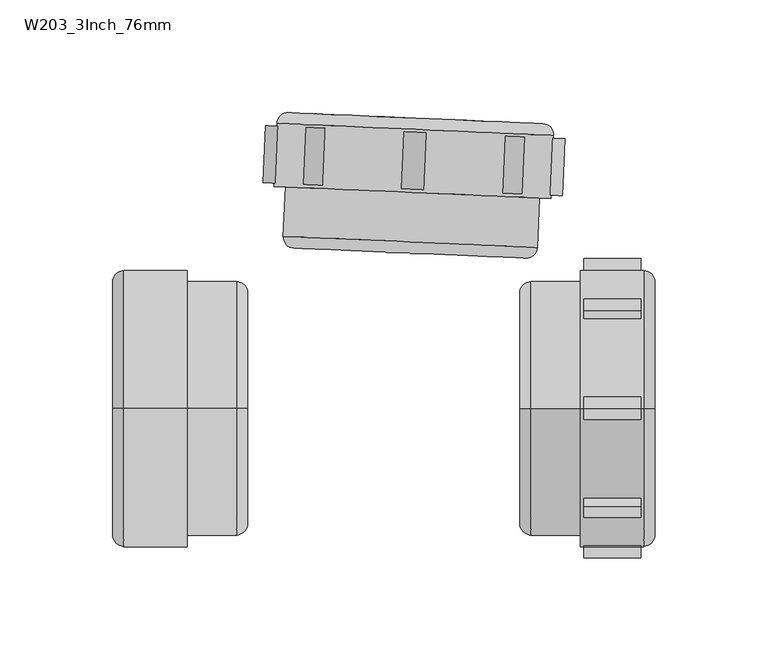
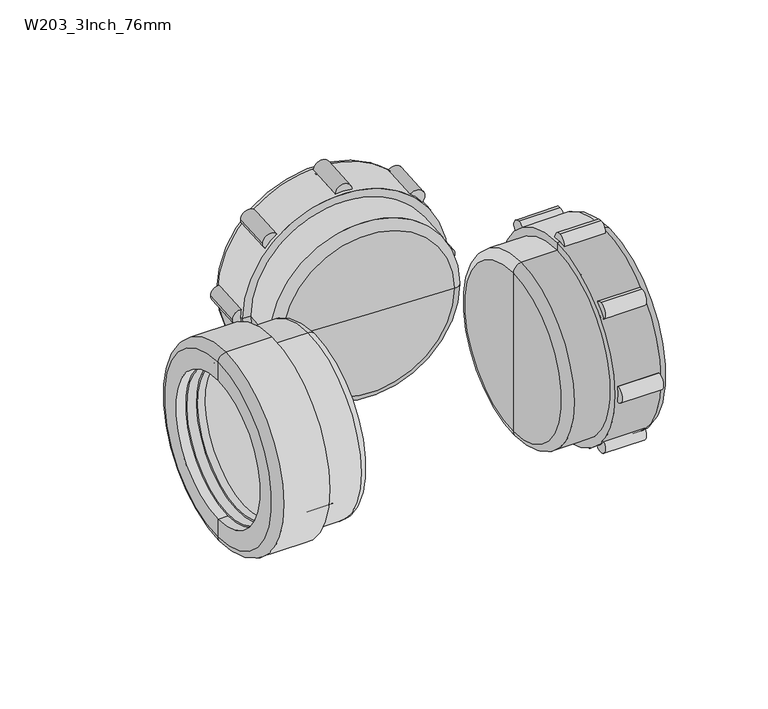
"""IFC4 building model written with IfcOpenShell, lengths in millimetres: pipe fitting geometry, Durapipe_PipeFitting_VulcatheneMechanical_92.5EqualSweepTee_W20 : W203_3Inch_76mm."""

from ifc_helpers import new_model, si_unit, point, frame, frame_2d, origin, place, context, project, spatial, polyline, circle_curve, ellipse_curve, trimmed, segment, composite_curve, outline, extrude, source, transform, mapped, element, save
from ifc_brep_helpers import plane_surface, cylinder_surface, revolved_surface, advanced_brep


def w203_3inch_76mm_116432e9(model_context):
    return source(origin(), model_context, "Body", "SolidModel", [
        advanced_brep(
        [(-30.6065567, 124.1262066, 35.9917352), (41.3084013, 120.9863317, -35.9917352), (36.6459384, 121.1898993, -31.3248304), (-25.9440938, 123.9226391, 31.3248304), (-28.3837217, 103.709816, 32.8804653), (37.3146191, 100.8413645, -32.8804653), (-29.4611206, 79.033325, 32.8804653), (36.2372202, 76.1648735, -32.8804653), (-27.9069663, 78.9654691, 31.3248304), (34.6830659, 76.2327293, -31.3248304), (-26.4108213, 113.2328231, 31.3248304), (36.1792109, 110.5000833, -31.3248304), (-25.7750309, 113.2050639, 30.6884343), (35.5434205, 110.5278425, -30.6884343), (-26.2101721, 117.8284449, 31.3248304), (36.3798601, 115.0957051, -31.3248304), (35.7440697, 115.1234643, -30.6884343), (-25.5743817, 117.8006857, 30.6884343)],
        [
            (0, 1, circle_curve(frame((5.3509223, 122.5562692, 0.0), z_axis=(0.04361938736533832, 0.9990482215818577, 0.0), x_axis=(0.7064337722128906, -0.030843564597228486, -0.7071067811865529)), 50.9)),
            (1, 2),
            (2, 3, circle_curve(frame((5.3509223, 122.5562692, 0.0), z_axis=(-0.04361938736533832, -0.9990482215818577, 0.0), x_axis=(0.7064337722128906, -0.030843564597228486, -0.7071067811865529)), 44.3)),
            (3, 0),
            (1, 0, circle_curve(frame((5.3509223, 122.5562692, 0.0), z_axis=(0.04361938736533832, 0.9990482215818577, 0.0), x_axis=(0.7064337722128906, -0.030843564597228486, -0.7071067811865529)), 50.9)),
            (3, 2, circle_curve(frame((5.3509223, 122.5562692, 0.0), z_axis=(-0.04361938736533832, -0.9990482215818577, 0.0), x_axis=(0.7064337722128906, -0.030843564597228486, -0.7071067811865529)), 44.3)),
            (0, 4),
            (4, 5, circle_curve(frame((4.4654487, 102.2755903, 0.0), z_axis=(0.04361938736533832, 0.9990482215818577, 0.0), x_axis=(0.7064337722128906, -0.030843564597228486, -0.7071067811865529)), 46.5)),
            (5, 1),
            (5, 4, circle_curve(frame((4.4654487, 102.2755903, 0.0), z_axis=(0.04361938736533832, 0.9990482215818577, 0.0), x_axis=(0.7064337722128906, -0.030843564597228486, -0.7071067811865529)), 46.5)),
            (6, 7, circle_curve(frame((3.3880498, 77.5990992, 0.0), z_axis=(0.04361938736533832, 0.9990482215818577, 0.0), x_axis=(0.7064337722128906, -0.030843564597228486, -0.7071067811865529)), 46.5)),
            (7, 5),
            (4, 6),
            (7, 6, circle_curve(frame((3.3880498, 77.5990992, 0.0), z_axis=(0.04361938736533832, 0.9990482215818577, 0.0), x_axis=(0.7064337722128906, -0.030843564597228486, -0.7071067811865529)), 46.5)),
            (6, 8),
            (8, 9, circle_curve(frame((3.3880498, 77.5990992, 0.0), z_axis=(0.04361938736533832, 0.9990482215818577, 0.0), x_axis=(0.7064337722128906, -0.030843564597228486, -0.7071067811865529)), 44.3)),
            (9, 7),
            (9, 8, circle_curve(frame((3.3880498, 77.5990992, 0.0), z_axis=(0.04361938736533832, 0.9990482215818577, 0.0), x_axis=(0.7064337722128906, -0.030843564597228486, -0.7071067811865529)), 44.3)),
            (8, 10),
            (10, 11, circle_curve(frame((4.8841948, 111.8664532, 0.0), z_axis=(0.04361938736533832, 0.9990482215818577, 0.0), x_axis=(0.7064337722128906, -0.030843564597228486, -0.7071067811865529)), 44.3)),
            (11, 9),
            (11, 10, circle_curve(frame((4.8841948, 111.8664532, 0.0), z_axis=(0.04361938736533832, 0.9990482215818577, 0.0), x_axis=(0.7064337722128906, -0.030843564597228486, -0.7071067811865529)), 44.3)),
            (10, 12),
            (12, 13, circle_curve(frame((4.8841948, 111.8664532, 0.0), z_axis=(0.04361938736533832, 0.9990482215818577, 0.0), x_axis=(0.7064337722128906, -0.030843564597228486, -0.7071067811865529)), 43.4)),
            (13, 11),
            (13, 12, circle_curve(frame((4.8841948, 111.8664532, 0.0), z_axis=(0.04361938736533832, 0.9990482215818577, 0.0), x_axis=(0.7064337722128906, -0.030843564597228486, -0.7071067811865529)), 43.4)),
            (14, 15, circle_curve(frame((5.084844, 116.462075, 0.0), z_axis=(0.04361938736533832, 0.9990482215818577, 0.0), x_axis=(0.7064337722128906, -0.030843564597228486, -0.7071067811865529)), 44.3)),
            (15, 16),
            (16, 17, circle_curve(frame((5.084844, 116.462075, 0.0), z_axis=(-0.04361938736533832, -0.9990482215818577, 0.0), x_axis=(0.7064337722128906, -0.030843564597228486, -0.7071067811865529)), 43.4)),
            (17, 14),
            (15, 14, circle_curve(frame((5.084844, 116.462075, 0.0), z_axis=(0.04361938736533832, 0.9990482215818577, 0.0), x_axis=(0.7064337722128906, -0.030843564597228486, -0.7071067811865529)), 44.3)),
            (17, 16, circle_curve(frame((5.084844, 116.462075, 0.0), z_axis=(-0.04361938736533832, -0.9990482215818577, 0.0), x_axis=(0.7064337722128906, -0.030843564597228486, -0.7071067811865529)), 43.4)),
            (2, 15),
            (14, 3),
            (12, 17),
            (16, 13),
        ],
        [
            plane_surface(frame((5.3509223, 122.5562692, 0.0), z_axis=(0.043619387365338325, 0.9990482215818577, 0.0), x_axis=(0.7064337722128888, -0.03084356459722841, -0.7071067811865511))),
            revolved_surface(polyline([(41.3084013, 120.9863317, -35.9917352), (37.3146191, 100.8413645, -32.8804653)]), (5.5690192, 127.5515103, 0.0), (-0.04361938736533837, -0.999048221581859, 0.0)),
            cylinder_surface(frame((3.2977291, 75.5304143, 0.0), z_axis=(-0.04361938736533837, -0.999048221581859, 0.0), x_axis=(0.7064337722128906, -0.030843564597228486, -0.7071067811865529)), 46.5),
            plane_surface(frame((3.3880498, 77.5990992, 0.0), z_axis=(-0.043619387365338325, -0.9990482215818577, 0.0), x_axis=(0.7064337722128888, -0.03084356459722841, -0.7071067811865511))),
            revolved_surface(polyline([(34.68306593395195, 76.23272927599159, -31.324830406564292), (36.17921092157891, 110.50008329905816, -31.324830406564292)]), (3.2356877, 74.1094328, 0.0), (-0.04361938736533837, -0.999048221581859, 0.0)),
            plane_surface(frame((4.8841948, 111.8664532, 0.0), z_axis=(-0.043619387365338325, -0.9990482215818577, 0.0), x_axis=(0.7064337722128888, -0.03084356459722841, -0.7071067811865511))),
            plane_surface(frame((5.084844, 116.462075, 0.0), z_axis=(0.043619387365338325, 0.9990482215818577, 0.0), x_axis=(0.7064337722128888, -0.03084356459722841, -0.7071067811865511))),
            revolved_surface(polyline([(36.379860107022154, 115.09570507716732, -31.324830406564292), (36.64593837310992, 121.18989930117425, -31.324830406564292)]), (5.5690192, 127.5515103, 0.0), (-0.04361938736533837, -0.999048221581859, 0.0)),
            revolved_surface(polyline([(35.543420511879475, 110.52784249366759, -30.688434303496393), (35.744069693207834, 115.12346430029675, -30.688434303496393)]), (5.4192386, 124.120971, 0.0), (-0.04361938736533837, -0.999048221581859, 0.0)),
        ],
        [
            (0, [[1, 2, 3, 4]]),
            (0, [[-2, 5, -4, 6]]),
            (1, [[-1, 7, 8, 9]]),
            (1, [[-5, -9, 10, -7]]),
            (2, [[11, 12, -8, 13]]),
            (2, [[-12, 14, -13, -10]]),
            (3, [[-11, 15, 16, 17]]),
            (3, [[-14, -17, 18, -15]]),
            (4, [[19, 20, 21, -16]]),
            (4, [[-19, -18, -21, 22]]),
            (5, [[-20, 23, 24, 25]]),
            (5, [[-22, -25, 26, -23]]),
            (6, [[27, 28, 29, 30]]),
            (6, [[31, -30, 32, -28]]),
            (7, [[-3, 33, -27, 34]]),
            (7, [[-6, -34, -31, -33]]),
            (8, [[35, -29, 36, -24]]),
            (8, [[-35, -26, -36, -32]]),
        ],
    ),
        advanced_brep(
        [(-57.255181, 98.564274, 0.0), (65.6277503, 93.1990893, 0.0), (66.8490931, 121.1724395, 0.0), (-56.0338382, 126.5376242, 0.0), (-52.2599399, 98.3461771, 0.0), (60.6325091, 93.4171863, 0.0), (-50.8205001, 131.3147684, 0.0), (62.0719489, 126.3857776, 0.0), (50.5828944, 126.8874005, 0.0), (-39.3314456, 130.8131454, 0.0), (-47.5986335, 124.8680967, 0.0), (58.300478, 120.2444417, 0.0), (56.2023855, 72.1902222, 0.0), (-49.696726, 76.8138773, 0.0), (-39.6062477, 124.5191416, 0.0), (50.3080922, 120.5933968, 0.0), (-53.2195664, 76.3671162, 0.0), (59.6728826, 71.4381254, 0.0), (-48.4424222, 71.1537781, 0.0), (54.4595446, 66.6609812, 0.0), (3.0085612, 68.9073797, 0.0), (3.2528297, 74.5020497, 0.0)],
        [
            (0, 1, circle_curve(frame((4.1862846, 95.8816817, 0.0), z_axis=(0.04361938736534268, 0.9990482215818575, 0.0), x_axis=(0.9990482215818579, -0.0436193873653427, 0.0)), 61.5)),
            (1, 2),
            (2, 3, circle_curve(frame((5.4076275, 123.8550319, 0.0), z_axis=(-0.04361938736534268, -0.9990482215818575, 0.0), x_axis=(0.9990482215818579, -0.0436193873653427, 0.0)), 61.5)),
            (3, 0),
            (1, 0, circle_curve(frame((4.1862846, 95.8816817, 0.0), z_axis=(0.04361938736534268, 0.9990482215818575, 0.0), x_axis=(0.9990482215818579, -0.0436193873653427, 0.0)), 61.5)),
            (3, 2, circle_curve(frame((5.4076275, 123.8550319, 0.0), z_axis=(-0.04361938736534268, -0.9990482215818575, 0.0), x_axis=(0.9990482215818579, -0.0436193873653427, 0.0)), 61.5)),
            (4, 5, circle_curve(frame((4.1862846, 95.8816817, 0.0), z_axis=(0.04361938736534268, 0.9990482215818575, 0.0), x_axis=(0.9990482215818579, -0.0436193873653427, 0.0)), 56.5)),
            (5, 1),
            (0, 4),
            (5, 4, circle_curve(frame((4.1862846, 95.8816817, 0.0), z_axis=(0.04361938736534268, 0.9990482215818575, 0.0), x_axis=(0.9990482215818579, -0.0436193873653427, 0.0)), 56.5)),
            (6, 7, circle_curve(frame((5.6257244, 128.850273, 0.0), z_axis=(0.04361938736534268, 0.9990482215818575, 0.0), x_axis=(0.9990482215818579, -0.0436193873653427, 0.0)), 56.5)),
            (7, 8),
            (8, 9, circle_curve(frame((5.6257244, 128.850273, 0.0), z_axis=(-0.04361938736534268, -0.9990482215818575, 0.0), x_axis=(0.9990482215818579, -0.0436193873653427, 0.0)), 45.0)),
            (9, 6),
            (7, 6, circle_curve(frame((5.6257244, 128.850273, 0.0), z_axis=(0.04361938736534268, 0.9990482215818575, 0.0), x_axis=(0.9990482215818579, -0.0436193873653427, 0.0)), 56.5)),
            (9, 8, circle_curve(frame((5.6257244, 128.850273, 0.0), z_axis=(-0.04361938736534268, -0.9990482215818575, 0.0), x_axis=(0.9990482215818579, -0.0436193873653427, 0.0)), 45.0)),
            (2, 7, circle_curve(frame((61.853852, 121.3905365, 0.0), z_axis=(0.0, 0.0, 1.0000000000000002), x_axis=(0.04361938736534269, 0.9990482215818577, 0.0)), 5.0)),
            (6, 3, circle_curve(frame((-51.038597, 126.3195273, 0.0), z_axis=(0.0, 0.0, 1.0000000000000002), x_axis=(0.04361938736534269, 0.9990482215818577, 0.0)), 5.0)),
            (10, 11, circle_curve(frame((5.3509223, 122.5562692, 0.0), z_axis=(0.04361938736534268, 0.9990482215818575, 0.0), x_axis=(0.9990482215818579, -0.0436193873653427, 0.0)), 53.0)),
            (11, 12),
            (12, 13, circle_curve(frame((3.2528297, 74.5020497, 0.0), z_axis=(-0.04361938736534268, -0.9990482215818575, 0.0), x_axis=(0.9990482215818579, -0.0436193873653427, 0.0)), 53.0)),
            (13, 10),
            (11, 10, circle_curve(frame((5.3509223, 122.5562692, 0.0), z_axis=(0.04361938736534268, 0.9990482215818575, 0.0), x_axis=(0.9990482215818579, -0.0436193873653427, 0.0)), 53.0)),
            (13, 12, circle_curve(frame((3.2528297, 74.5020497, 0.0), z_axis=(-0.04361938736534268, -0.9990482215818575, 0.0), x_axis=(0.9990482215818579, -0.0436193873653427, 0.0)), 53.0)),
            (14, 15, circle_curve(frame((5.3509223, 122.5562692, 0.0), z_axis=(0.04361938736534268, 0.9990482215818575, 0.0), x_axis=(0.9990482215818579, -0.0436193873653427, 0.0)), 45.0)),
            (15, 11),
            (10, 14),
            (15, 14, circle_curve(frame((5.3509223, 122.5562692, 0.0), z_axis=(0.04361938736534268, 0.9990482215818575, 0.0), x_axis=(0.9990482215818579, -0.0436193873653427, 0.0)), 45.0)),
            (8, 15),
            (14, 9),
            (16, 17, circle_curve(frame((3.2266581, 73.9026208, 0.0), z_axis=(0.04361938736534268, 0.9990482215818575, 0.0), x_axis=(0.9990482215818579, -0.0436193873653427, 0.0)), 56.5)),
            (17, 5),
            (4, 16),
            (17, 16, circle_curve(frame((3.2266581, 73.9026208, 0.0), z_axis=(0.04361938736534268, 0.9990482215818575, 0.0), x_axis=(0.9990482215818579, -0.0436193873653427, 0.0)), 56.5)),
            (18, 19, circle_curve(frame((3.0085612, 68.9073797, 0.0), z_axis=(0.04361938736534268, 0.9990482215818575, 0.0), x_axis=(0.9990482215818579, -0.0436193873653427, 0.0)), 51.5)),
            (19, 17, circle_curve(frame((54.6776415, 71.6562223, 0.0), z_axis=(0.0, 0.0, 1.0000000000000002), x_axis=(0.04361938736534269, 0.9990482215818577, 0.0)), 5.0)),
            (16, 18, circle_curve(frame((-48.2243253, 76.1490192, 0.0), z_axis=(0.0, 0.0, 1.0000000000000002), x_axis=(0.04361938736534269, 0.9990482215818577, 0.0)), 5.0)),
            (19, 18, circle_curve(frame((3.0085612, 68.9073797, 0.0), z_axis=(0.04361938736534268, 0.9990482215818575, 0.0), x_axis=(0.9990482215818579, -0.0436193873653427, 0.0)), 51.5)),
            (20, 19),
            (18, 20),
            (12, 21),
            (21, 13),
        ],
        [
            cylinder_surface(frame((73.7069435, 1688.1665539, 0.0), z_axis=(-0.04361938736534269, -0.9990482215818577, 0.0), x_axis=(0.9990482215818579, -0.0436193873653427, 0.0)), 61.5),
            plane_surface(frame((4.1862846, 95.8816817, 0.0), z_axis=(-0.04361938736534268, -0.9990482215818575, 0.0), x_axis=(0.9990482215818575, -0.04361938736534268, 0.0))),
            plane_surface(frame((5.6257244, 128.850273, 0.0), z_axis=(0.04361938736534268, 0.9990482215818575, 0.0), x_axis=(0.9990482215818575, -0.04361938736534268, 0.0))),
            revolved_surface(trimmed(ellipse_curve(frame((61.853852, 121.3905365, 0.0), z_axis=(0.0, 0.0, -1.0000000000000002), x_axis=(0.04361938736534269, 0.9990482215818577, 0.0)), 5.0, 5.0), [point((62.0719489, 126.3857776, 0.0))], [point((66.8490931, 121.1724395, 0.0))], True, "CARTESIAN"), (73.7069435, 1688.1665539, 0.0), (-0.04361938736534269, -0.9990482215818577, 0.0)),
            revolved_surface(polyline([(56.202385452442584, 72.19022216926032, 0.0), (58.30047798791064, 120.24444170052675, 0.0)]), (73.7069435, 1688.1665539, 0.0), (-0.04361938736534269, -0.9990482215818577, 0.0)),
            plane_surface(frame((5.3509223, 122.5562692, 0.0), z_axis=(-0.04361938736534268, -0.9990482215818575, 0.0), x_axis=(0.9990482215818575, -0.04361938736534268, 0.0))),
            revolved_surface(polyline([(50.308092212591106, 120.5933967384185, 0.0), (50.58289435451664, 126.88740056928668, 0.0)]), (73.7069435, 1688.1665539, 0.0), (-0.04361938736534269, -0.9990482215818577, 0.0)),
            cylinder_surface(frame((73.7069435, 1688.1665539, 0.0), z_axis=(-0.04361938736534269, -0.9990482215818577, 0.0), x_axis=(0.9990482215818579, -0.0436193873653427, 0.0)), 56.5),
            revolved_surface(trimmed(ellipse_curve(frame((54.6776415, 71.6562223, 0.0), z_axis=(0.0, 0.0, -1.0000000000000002), x_axis=(0.04361938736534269, 0.9990482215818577, 0.0)), 5.0, 5.0), [point((59.6728826, 71.4381254, 0.0))], [point((54.4595446, 66.6609812, 0.0))], True, "CARTESIAN"), (73.7069435, 1688.1665539, 0.0), (-0.04361938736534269, -0.9990482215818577, 0.0)),
            plane_surface(frame((3.0085612, 68.9073797, 0.0), z_axis=(-0.04361938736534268, -0.9990482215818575, 0.0), x_axis=(0.9990482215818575, -0.04361938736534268, 0.0))),
            plane_surface(frame((3.2528297, 74.5020497, 0.0), z_axis=(0.04361938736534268, 0.9990482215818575, 0.0), x_axis=(0.9990482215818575, -0.04361938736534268, 0.0))),
        ],
        [
            (0, [[1, 2, 3, 4]]),
            (0, [[5, -4, 6, -2]]),
            (1, [[7, 8, -1, 9]]),
            (1, [[10, -9, -5, -8]]),
            (2, [[11, 12, 13, 14]]),
            (2, [[15, -14, 16, -12]]),
            (3, [[-3, 17, -11, 18]]),
            (3, [[-6, -18, -15, -17]]),
            (4, [[19, 20, 21, 22]]),
            (4, [[23, -22, 24, -20]]),
            (5, [[25, 26, -19, 27]]),
            (5, [[28, -27, -23, -26]]),
            (6, [[-13, 29, -25, 30]]),
            (6, [[-16, -30, -28, -29]]),
            (7, [[31, 32, -7, 33]]),
            (7, [[34, -33, -10, -32]]),
            (8, [[35, 36, -31, 37]]),
            (8, [[38, -37, -34, -36]]),
            (9, [[39, -35, 40]]),
            (9, [[-40, -38, -39]]),
            (10, [[-21, 41, 42]]),
            (10, [[-24, -42, -41]]),
        ],
    ),
        extrude(outline(composite_curve([segment(trimmed(circle_curve(frame_2d((0.0, -5.0)), 5.0), [point((0.0, -10.0))], [point((0.0, 0.0))], False, "CARTESIAN"), True, "CONTINUOUS"), segment(trimmed(circle_curve(frame_2d((0.0, -5.0)), 5.0), [point((0.0, 0.0))], [point((0.0, -10.0))], False, "CARTESIAN"), True, "CONTINUOUS")], self_intersect=False)), frame((9.2469548, 97.1621571, -61.5), z_axis=(0.04361938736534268, 0.9990482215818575, 0.0), x_axis=(0.0, 0.0, 1.0)), (0.0, 0.0, 1.0), 25.2),
        extrude(outline(composite_curve([segment(trimmed(circle_curve(frame_2d((18.012933, 38.4870671)), 5.0), [point((18.012933, 33.4870671))], [point((18.012933, 43.4870671))], False, "CARTESIAN"), True, "CONTINUOUS"), segment(trimmed(circle_curve(frame_2d((18.012933, 38.4870671)), 5.0), [point((18.012933, 43.4870671))], [point((18.012933, 33.4870671))], False, "CARTESIAN"), True, "CONTINUOUS")], self_intersect=False)), frame((9.2469548, 97.1621571, -61.5), z_axis=(0.04361938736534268, 0.9990482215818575, 0.0), x_axis=(0.0, 0.0, 1.0)), (0.0, 0.0, 1.0), 25.2),
        extrude(outline(composite_curve([segment(trimmed(circle_curve(frame_2d((61.5, 56.5)), 5.0), [point((61.5, 51.5))], [point((61.5, 61.5))], False, "CARTESIAN"), True, "CONTINUOUS"), segment(trimmed(circle_curve(frame_2d((61.5, 56.5)), 5.0), [point((61.5, 61.5))], [point((61.5, 51.5))], False, "CARTESIAN"), True, "CONTINUOUS")], self_intersect=False)), frame((9.2469548, 97.1621571, -61.5), z_axis=(0.04361938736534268, 0.9990482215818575, 0.0), x_axis=(0.0, 0.0, 1.0)), (0.0, 0.0, 1.0), 25.2),
        extrude(outline(composite_curve([segment(trimmed(circle_curve(frame_2d((104.987067, 38.4870671)), 5.0), [point((104.987067, 33.4870671))], [point((104.987067, 43.4870671))], False, "CARTESIAN"), True, "CONTINUOUS"), segment(trimmed(circle_curve(frame_2d((104.987067, 38.4870671)), 5.0), [point((104.987067, 43.4870671))], [point((104.987067, 33.4870671))], False, "CARTESIAN"), True, "CONTINUOUS")], self_intersect=False)), frame((9.2469548, 97.1621571, -61.5), z_axis=(0.04361938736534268, 0.9990482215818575, 0.0), x_axis=(0.0, 0.0, 1.0)), (0.0, 0.0, 1.0), 25.2),
        extrude(outline(composite_curve([segment(trimmed(circle_curve(frame_2d((123.0, -5.0)), 5.0), [point((123.0, -10.0))], [point((123.0, 0.0))], False, "CARTESIAN"), True, "CONTINUOUS"), segment(trimmed(circle_curve(frame_2d((123.0, -5.0)), 5.0), [point((123.0, 0.0))], [point((123.0, -10.0))], False, "CARTESIAN"), True, "CONTINUOUS")], self_intersect=False)), frame((9.2469548, 97.1621571, -61.5), z_axis=(0.04361938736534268, 0.9990482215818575, 0.0), x_axis=(0.0, 0.0, 1.0)), (0.0, 0.0, 1.0), 25.2),
        extrude(outline(composite_curve([segment(trimmed(circle_curve(frame_2d((104.987067, -48.487067)), 5.0), [point((104.987067, -53.487067))], [point((104.987067, -43.4870671))], False, "CARTESIAN"), True, "CONTINUOUS"), segment(trimmed(circle_curve(frame_2d((104.987067, -48.487067)), 5.0), [point((104.987067, -43.4870671))], [point((104.987067, -53.487067))], False, "CARTESIAN"), True, "CONTINUOUS")], self_intersect=False)), frame((9.2469548, 97.1621571, -61.5), z_axis=(0.04361938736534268, 0.9990482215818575, 0.0), x_axis=(0.0, 0.0, 1.0)), (0.0, 0.0, 1.0), 25.2),
        extrude(outline(composite_curve([segment(trimmed(circle_curve(frame_2d((61.5, -66.5)), 5.0), [point((61.5, -71.5))], [point((61.5, -61.5))], False, "CARTESIAN"), True, "CONTINUOUS"), segment(trimmed(circle_curve(frame_2d((61.5, -66.5)), 5.0), [point((61.5, -61.5))], [point((61.5, -71.5))], False, "CARTESIAN"), True, "CONTINUOUS")], self_intersect=False)), frame((9.2469548, 97.1621571, -61.5), z_axis=(0.04361938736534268, 0.9990482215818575, 0.0), x_axis=(0.0, 0.0, 1.0)), (0.0, 0.0, 1.0), 25.2),
        extrude(outline(composite_curve([segment(trimmed(circle_curve(frame_2d((18.012933, -48.487067)), 5.0), [point((18.012933, -53.487067))], [point((18.012933, -43.4870671))], False, "CARTESIAN"), True, "CONTINUOUS"), segment(trimmed(circle_curve(frame_2d((18.012933, -48.487067)), 5.0), [point((18.012933, -43.4870671))], [point((18.012933, -53.487067))], False, "CARTESIAN"), True, "CONTINUOUS")], self_intersect=False)), frame((9.2469548, 97.1621571, -61.5), z_axis=(0.04361938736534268, 0.9990482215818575, 0.0), x_axis=(0.0, 0.0, 1.0)), (0.0, 0.0, 1.0), 25.2),
        advanced_brep(
        [(105.5269733, 35.9917352, -35.9917352), (105.5269733, -35.9917352, 35.9917352), (105.5269733, -31.3248304, 31.3248304), (105.5269733, 31.3248304, -31.3248304), (85.2269733, 32.8804653, -32.8804653), (85.2269733, -32.8804653, 32.8804653), (60.5269733, 32.8804653, -32.8804653), (60.5269733, -32.8804653, 32.8804653), (60.5269733, 31.3248304, -31.3248304), (60.5269733, -31.3248304, 31.3248304), (94.8269733, 31.3248304, -31.3248304), (94.8269733, -31.3248304, 31.3248304), (94.8269733, 30.6884343, -30.6884343), (94.8269733, -30.6884343, 30.6884343), (99.4269733, 31.3248304, -31.3248304), (99.4269733, -31.3248304, 31.3248304), (99.4269733, -30.6884343, 30.6884343), (99.4269733, 30.6884343, -30.6884343)],
        [
            (0, 1, circle_curve(frame((105.5269733, 0.0, 0.0), z_axis=(1.0, 0.0, 0.0), x_axis=(0.0, -0.7071067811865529, 0.7071067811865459)), 50.9)),
            (1, 2),
            (2, 3, circle_curve(frame((105.5269733, 0.0, 0.0), z_axis=(-1.0, 0.0, 0.0), x_axis=(0.0, -0.7071067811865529, 0.7071067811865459)), 44.3)),
            (3, 0),
            (1, 0, circle_curve(frame((105.5269733, 0.0, 0.0), z_axis=(1.0, 0.0, 0.0), x_axis=(0.0, -0.7071067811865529, 0.7071067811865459)), 50.9)),
            (3, 2, circle_curve(frame((105.5269733, 0.0, 0.0), z_axis=(-1.0, 0.0, 0.0), x_axis=(0.0, -0.7071067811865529, 0.7071067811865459)), 44.3)),
            (0, 4),
            (4, 5, circle_curve(frame((85.2269733, 0.0, 0.0), z_axis=(1.0, 0.0, 0.0), x_axis=(0.0, -0.7071067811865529, 0.7071067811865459)), 46.5)),
            (5, 1),
            (5, 4, circle_curve(frame((85.2269733, 0.0, 0.0), z_axis=(1.0, 0.0, 0.0), x_axis=(0.0, -0.7071067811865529, 0.7071067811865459)), 46.5)),
            (6, 7, circle_curve(frame((60.5269733, 0.0, 0.0), z_axis=(1.0, 0.0, 0.0), x_axis=(0.0, -0.7071067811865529, 0.7071067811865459)), 46.5)),
            (7, 5),
            (4, 6),
            (7, 6, circle_curve(frame((60.5269733, 0.0, 0.0), z_axis=(1.0, 0.0, 0.0), x_axis=(0.0, -0.7071067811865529, 0.7071067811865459)), 46.5)),
            (6, 8),
            (8, 9, circle_curve(frame((60.5269733, 0.0, 0.0), z_axis=(1.0, 0.0, 0.0), x_axis=(0.0, -0.7071067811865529, 0.7071067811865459)), 44.3)),
            (9, 7),
            (9, 8, circle_curve(frame((60.5269733, 0.0, 0.0), z_axis=(1.0, 0.0, 0.0), x_axis=(0.0, -0.7071067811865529, 0.7071067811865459)), 44.3)),
            (8, 10),
            (10, 11, circle_curve(frame((94.8269733, 0.0, 0.0), z_axis=(1.0, 0.0, 0.0), x_axis=(0.0, -0.7071067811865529, 0.7071067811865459)), 44.3)),
            (11, 9),
            (11, 10, circle_curve(frame((94.8269733, 0.0, 0.0), z_axis=(1.0, 0.0, 0.0), x_axis=(0.0, -0.7071067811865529, 0.7071067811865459)), 44.3)),
            (10, 12),
            (12, 13, circle_curve(frame((94.8269733, 0.0, 0.0), z_axis=(1.0, 0.0, 0.0), x_axis=(0.0, -0.7071067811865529, 0.7071067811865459)), 43.4)),
            (13, 11),
            (13, 12, circle_curve(frame((94.8269733, 0.0, 0.0), z_axis=(1.0, 0.0, 0.0), x_axis=(0.0, -0.7071067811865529, 0.7071067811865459)), 43.4)),
            (14, 15, circle_curve(frame((99.4269733, 0.0, 0.0), z_axis=(1.0, 0.0, 0.0), x_axis=(0.0, -0.7071067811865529, 0.7071067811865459)), 44.3)),
            (15, 16),
            (16, 17, circle_curve(frame((99.4269733, 0.0, 0.0), z_axis=(-1.0, 0.0, 0.0), x_axis=(0.0, -0.7071067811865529, 0.7071067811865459)), 43.4)),
            (17, 14),
            (15, 14, circle_curve(frame((99.4269733, 0.0, 0.0), z_axis=(1.0, 0.0, 0.0), x_axis=(0.0, -0.7071067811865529, 0.7071067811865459)), 44.3)),
            (17, 16, circle_curve(frame((99.4269733, 0.0, 0.0), z_axis=(-1.0, 0.0, 0.0), x_axis=(0.0, -0.7071067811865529, 0.7071067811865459)), 43.4)),
            (2, 15),
            (14, 3),
            (12, 17),
            (16, 13),
        ],
        [
            plane_surface(frame((105.5269733, 0.0, 0.0), z_axis=(1.0, 0.0, 0.0), x_axis=(0.0, -0.707106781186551, 0.707106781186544))),
            revolved_surface(polyline([(105.5269733, -35.9917352, 35.9917352), (85.2269733, -32.8804653, 32.8804653)]), (110.5269733, 0.0, 0.0), (-1.0000000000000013, 0.0, 0.0)),
            cylinder_surface(frame((58.4563176, 0.0, 0.0), z_axis=(-1.0000000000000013, 0.0, 0.0), x_axis=(0.0, -0.7071067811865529, 0.7071067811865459)), 46.5),
            plane_surface(frame((60.5269733, 0.0, 0.0), z_axis=(-1.0, 0.0, 0.0), x_axis=(0.0, -0.707106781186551, 0.707106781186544))),
            revolved_surface(polyline([(60.52697330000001, -31.324830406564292, 31.324830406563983), (94.8269733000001, -31.324830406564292, 31.324830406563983)]), (57.0339823, 0.0, 0.0), (-1.0000000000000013, 0.0, 0.0)),
            plane_surface(frame((94.8269733, 0.0, 0.0), z_axis=(-1.0, 0.0, 0.0), x_axis=(0.0, -0.707106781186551, 0.707106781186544))),
            plane_surface(frame((99.4269733, 0.0, 0.0), z_axis=(1.0, 0.0, 0.0), x_axis=(0.0, -0.707106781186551, 0.707106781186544))),
            revolved_surface(polyline([(99.42697329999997, -31.324830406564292, 31.324830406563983), (105.52697329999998, -31.324830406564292, 31.324830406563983)]), (110.5269733, 0.0, 0.0), (-1.0000000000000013, 0.0, 0.0)),
            revolved_surface(polyline([(94.82697329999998, -30.688434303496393, 30.68843430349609), (99.42697329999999, -30.688434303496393, 30.68843430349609)]), (107.0931657, 0.0, 0.0), (-1.0000000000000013, 0.0, 0.0)),
        ],
        [
            (0, [[1, 2, 3, 4]]),
            (0, [[-2, 5, -4, 6]]),
            (1, [[-1, 7, 8, 9]]),
            (1, [[-5, -9, 10, -7]]),
            (2, [[11, 12, -8, 13]]),
            (2, [[-12, 14, -13, -10]]),
            (3, [[-11, 15, 16, 17]]),
            (3, [[-14, -17, 18, -15]]),
            (4, [[19, 20, 21, -16]]),
            (4, [[-19, -18, -21, 22]]),
            (5, [[-20, 23, 24, 25]]),
            (5, [[-22, -25, 26, -23]]),
            (6, [[27, 28, 29, 30]]),
            (6, [[31, -30, 32, -28]]),
            (7, [[-3, 33, -27, 34]]),
            (7, [[-6, -34, -31, -33]]),
            (8, [[35, -29, 36, -24]]),
            (8, [[-35, -26, -36, -32]]),
        ],
    ),
        advanced_brep(
        [(78.8269733, 0.0, -61.5), (78.8269733, 0.0, 61.5), (106.8269733, 0.0, 61.5), (106.8269733, 0.0, -61.5), (78.8269733, 0.0, -56.5), (78.8269733, 0.0, 56.5), (111.8269733, 0.0, -56.5), (111.8269733, 0.0, 56.5), (111.8269733, 0.0, 45.0), (111.8269733, 0.0, -45.0), (105.5269733, 0.0, -53.0), (105.5269733, 0.0, 53.0), (57.4269733, 0.0, 53.0), (57.4269733, 0.0, -53.0), (105.5269733, 0.0, -45.0), (105.5269733, 0.0, 45.0), (56.8269733, 0.0, -56.5), (56.8269733, 0.0, 56.5), (51.8269733, 0.0, -51.5), (51.8269733, 0.0, 51.5), (51.8269733, 0.0, 0.0), (57.4269733, 0.0, 0.0)],
        [
            (0, 1, circle_curve(frame((78.8269733, 0.0, 0.0), z_axis=(1.0, 0.0, 0.0), x_axis=(0.0, 0.0, 1.0000000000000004)), 61.5)),
            (1, 2),
            (2, 3, circle_curve(frame((106.8269733, 0.0, 0.0), z_axis=(-1.0, 0.0, 0.0), x_axis=(0.0, 0.0, 1.0000000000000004)), 61.5)),
            (3, 0),
            (1, 0, circle_curve(frame((78.8269733, 0.0, 0.0), z_axis=(1.0, 0.0, 0.0), x_axis=(0.0, 0.0, 1.0000000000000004)), 61.5)),
            (3, 2, circle_curve(frame((106.8269733, 0.0, 0.0), z_axis=(-1.0, 0.0, 0.0), x_axis=(0.0, 0.0, 1.0000000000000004)), 61.5)),
            (4, 5, circle_curve(frame((78.8269733, 0.0, 0.0), z_axis=(1.0, 0.0, 0.0), x_axis=(0.0, 0.0, 1.0000000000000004)), 56.5)),
            (5, 1),
            (0, 4),
            (5, 4, circle_curve(frame((78.8269733, 0.0, 0.0), z_axis=(1.0, 0.0, 0.0), x_axis=(0.0, 0.0, 1.0000000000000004)), 56.5)),
            (6, 7, circle_curve(frame((111.8269733, 0.0, 0.0), z_axis=(1.0, 0.0, 0.0), x_axis=(0.0, 0.0, 1.0000000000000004)), 56.5)),
            (7, 8),
            (8, 9, circle_curve(frame((111.8269733, 0.0, 0.0), z_axis=(-1.0, 0.0, 0.0), x_axis=(0.0, 0.0, 1.0000000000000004)), 45.0)),
            (9, 6),
            (7, 6, circle_curve(frame((111.8269733, 0.0, 0.0), z_axis=(1.0, 0.0, 0.0), x_axis=(0.0, 0.0, 1.0000000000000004)), 56.5)),
            (9, 8, circle_curve(frame((111.8269733, 0.0, 0.0), z_axis=(-1.0, 0.0, 0.0), x_axis=(0.0, 0.0, 1.0000000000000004)), 45.0)),
            (2, 7, circle_curve(frame((106.8269733, 0.0, 56.5), z_axis=(0.0, 1.0000000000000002, 0.0), x_axis=(1.0000000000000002, 0.0, 0.0)), 5.0)),
            (6, 3, circle_curve(frame((106.8269733, 0.0, -56.5), z_axis=(0.0, 1.0000000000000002, 0.0), x_axis=(1.0000000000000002, 0.0, 0.0)), 5.0)),
            (10, 11, circle_curve(frame((105.5269733, 0.0, 0.0), z_axis=(1.0, 0.0, 0.0), x_axis=(0.0, 0.0, 1.0000000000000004)), 53.0)),
            (11, 12),
            (12, 13, circle_curve(frame((57.4269733, 0.0, 0.0), z_axis=(-1.0, 0.0, 0.0), x_axis=(0.0, 0.0, 1.0000000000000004)), 53.0)),
            (13, 10),
            (11, 10, circle_curve(frame((105.5269733, 0.0, 0.0), z_axis=(1.0, 0.0, 0.0), x_axis=(0.0, 0.0, 1.0000000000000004)), 53.0)),
            (13, 12, circle_curve(frame((57.4269733, 0.0, 0.0), z_axis=(-1.0, 0.0, 0.0), x_axis=(0.0, 0.0, 1.0000000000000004)), 53.0)),
            (14, 15, circle_curve(frame((105.5269733, 0.0, 0.0), z_axis=(1.0, 0.0, 0.0), x_axis=(0.0, 0.0, 1.0000000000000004)), 45.0)),
            (15, 11),
            (10, 14),
            (15, 14, circle_curve(frame((105.5269733, 0.0, 0.0), z_axis=(1.0, 0.0, 0.0), x_axis=(0.0, 0.0, 1.0000000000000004)), 45.0)),
            (8, 15),
            (14, 9),
            (16, 17, circle_curve(frame((56.8269733, 0.0, 0.0), z_axis=(1.0, 0.0, 0.0), x_axis=(0.0, 0.0, 1.0000000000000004)), 56.5)),
            (17, 5),
            (4, 16),
            (17, 16, circle_curve(frame((56.8269733, 0.0, 0.0), z_axis=(1.0, 0.0, 0.0), x_axis=(0.0, 0.0, 1.0000000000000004)), 56.5)),
            (18, 19, circle_curve(frame((51.8269733, 0.0, 0.0), z_axis=(1.0, 0.0, 0.0), x_axis=(0.0, 0.0, 1.0000000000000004)), 51.5)),
            (19, 17, circle_curve(frame((56.8269733, 0.0, 51.5), z_axis=(0.0, 1.0000000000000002, 0.0), x_axis=(1.0000000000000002, 0.0, 0.0)), 5.0)),
            (16, 18, circle_curve(frame((56.8269733, 0.0, -51.5), z_axis=(0.0, 1.0000000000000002, 0.0), x_axis=(1.0000000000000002, 0.0, 0.0)), 5.0)),
            (19, 18, circle_curve(frame((51.8269733, 0.0, 0.0), z_axis=(1.0, 0.0, 0.0), x_axis=(0.0, 0.0, 1.0000000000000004)), 51.5)),
            (20, 19),
            (18, 20),
            (12, 21),
            (21, 13),
        ],
        [
            cylinder_surface(frame((1672.6287917, 0.0, 0.0), z_axis=(-1.0000000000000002, 0.0, 0.0), x_axis=(0.0, 0.0, 1.0000000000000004)), 61.5),
            plane_surface(frame((78.8269733, 0.0, 0.0), z_axis=(-1.0, 0.0, 0.0), x_axis=(0.0, 0.0, 1.0))),
            plane_surface(frame((111.8269733, 0.0, 0.0), z_axis=(1.0, 0.0, 0.0), x_axis=(0.0, 0.0, 1.0))),
            revolved_surface(trimmed(ellipse_curve(frame((106.8269733, 0.0, 56.5), z_axis=(0.0, -1.0000000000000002, 0.0), x_axis=(1.0000000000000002, 0.0, 0.0)), 5.0, 5.0), [point((111.8269733, 0.0, 56.5))], [point((106.8269733, 0.0, 61.5))], True, "CARTESIAN"), (1672.6287917, 0.0, 0.0), (-1.0000000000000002, 0.0, 0.0)),
            revolved_surface(polyline([(57.42697329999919, 0.0, 53.00000000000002), (105.5269732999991, 0.0, 53.00000000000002)]), (1672.6287917, 0.0, 0.0), (-1.0000000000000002, 0.0, 0.0)),
            plane_surface(frame((105.5269733, 0.0, 0.0), z_axis=(-1.0, 0.0, 0.0), x_axis=(0.0, 0.0, 1.0))),
            revolved_surface(polyline([(105.5269732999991, 0.0, 45.00000000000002), (111.82697329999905, 0.0, 45.00000000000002)]), (1672.6287917, 0.0, 0.0), (-1.0000000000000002, 0.0, 0.0)),
            cylinder_surface(frame((1672.6287917, 0.0, 0.0), z_axis=(-1.0000000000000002, 0.0, 0.0), x_axis=(0.0, 0.0, 1.0000000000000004)), 56.5),
            revolved_surface(trimmed(ellipse_curve(frame((56.8269733, 0.0, 51.5), z_axis=(0.0, -1.0000000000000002, 0.0), x_axis=(1.0000000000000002, 0.0, 0.0)), 5.0, 5.0), [point((56.8269733, 0.0, 56.5))], [point((51.8269733, 0.0, 51.5))], True, "CARTESIAN"), (1672.6287917, 0.0, 0.0), (-1.0000000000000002, 0.0, 0.0)),
            plane_surface(frame((51.8269733, 0.0, 0.0), z_axis=(-1.0, 0.0, 0.0), x_axis=(0.0, 0.0, 1.0))),
            plane_surface(frame((57.4269733, 0.0, 0.0), z_axis=(1.0, 0.0, 0.0), x_axis=(0.0, 0.0, 1.0))),
        ],
        [
            (0, [[1, 2, 3, 4]]),
            (0, [[5, -4, 6, -2]]),
            (1, [[7, 8, -1, 9]]),
            (1, [[10, -9, -5, -8]]),
            (2, [[11, 12, 13, 14]]),
            (2, [[15, -14, 16, -12]]),
            (3, [[-3, 17, -11, 18]]),
            (3, [[-6, -18, -15, -17]]),
            (4, [[19, 20, 21, 22]]),
            (4, [[23, -22, 24, -20]]),
            (5, [[25, 26, -19, 27]]),
            (5, [[28, -27, -23, -26]]),
            (6, [[-13, 29, -25, 30]]),
            (6, [[-16, -30, -28, -29]]),
            (7, [[31, 32, -7, 33]]),
            (7, [[34, -33, -10, -32]]),
            (8, [[35, 36, -31, 37]]),
            (8, [[38, -37, -34, -36]]),
            (9, [[39, -35, 40]]),
            (9, [[-40, -38, -39]]),
            (10, [[-21, 41, 42]]),
            (10, [[-24, -42, -41]]),
        ],
    ),
        extrude(outline(composite_curve([segment(trimmed(circle_curve(frame_2d((-61.5, 0.0)), 5.0), [point((-61.5, -5.0))], [point((-61.5, 5.0))], False, "CARTESIAN"), True, "CONTINUOUS"), segment(trimmed(circle_curve(frame_2d((-61.5, 0.0)), 5.0), [point((-61.5, 5.0))], [point((-61.5, -5.0))], False, "CARTESIAN"), True, "CONTINUOUS")], self_intersect=False)), frame((80.3269733, 0.0, 0.0), z_axis=(1.0, 0.0, 0.0), x_axis=(0.0, 1.0, 0.0)), (0.0, 0.0, 1.0), 25.2),
        extrude(outline(composite_curve([segment(trimmed(circle_curve(frame_2d((-43.487067, 43.487067)), 5.0), [point((-43.487067, 38.487067))], [point((-43.487067, 48.487067))], False, "CARTESIAN"), True, "CONTINUOUS"), segment(trimmed(circle_curve(frame_2d((-43.487067, 43.487067)), 5.0), [point((-43.487067, 48.487067))], [point((-43.487067, 38.487067))], False, "CARTESIAN"), True, "CONTINUOUS")], self_intersect=False)), frame((80.3269733, 0.0, 0.0), z_axis=(1.0, 0.0, 0.0), x_axis=(0.0, 1.0, 0.0)), (0.0, 0.0, 1.0), 25.2),
        extrude(outline(composite_curve([segment(trimmed(circle_curve(frame_2d((0.0, 61.5)), 5.0), [point((0.0, 56.5))], [point((0.0, 66.5))], False, "CARTESIAN"), True, "CONTINUOUS"), segment(trimmed(circle_curve(frame_2d((0.0, 61.5)), 5.0), [point((0.0, 66.5))], [point((0.0, 56.5))], False, "CARTESIAN"), True, "CONTINUOUS")], self_intersect=False)), frame((80.3269733, 0.0, 0.0), z_axis=(1.0, 0.0, 0.0), x_axis=(0.0, 1.0, 0.0)), (0.0, 0.0, 1.0), 25.2),
        extrude(outline(composite_curve([segment(trimmed(circle_curve(frame_2d((43.487067, 43.487067)), 5.0), [point((43.487067, 38.487067))], [point((43.487067, 48.487067))], False, "CARTESIAN"), True, "CONTINUOUS"), segment(trimmed(circle_curve(frame_2d((43.487067, 43.487067)), 5.0), [point((43.487067, 48.487067))], [point((43.487067, 38.487067))], False, "CARTESIAN"), True, "CONTINUOUS")], self_intersect=False)), frame((80.3269733, 0.0, 0.0), z_axis=(1.0, 0.0, 0.0), x_axis=(0.0, 1.0, 0.0)), (0.0, 0.0, 1.0), 25.2),
        extrude(outline(composite_curve([segment(trimmed(circle_curve(frame_2d((61.5, 0.0)), 5.0), [point((61.5, -5.0))], [point((61.5, 5.0))], False, "CARTESIAN"), True, "CONTINUOUS"), segment(trimmed(circle_curve(frame_2d((61.5, 0.0)), 5.0), [point((61.5, 5.0))], [point((61.5, -5.0))], False, "CARTESIAN"), True, "CONTINUOUS")], self_intersect=False)), frame((80.3269733, 0.0, 0.0), z_axis=(1.0, 0.0, 0.0), x_axis=(0.0, 1.0, 0.0)), (0.0, 0.0, 1.0), 25.2),
        extrude(outline(composite_curve([segment(trimmed(circle_curve(frame_2d((43.487067, -43.487067)), 5.0), [point((43.487067, -48.487067))], [point((43.487067, -38.487067))], False, "CARTESIAN"), True, "CONTINUOUS"), segment(trimmed(circle_curve(frame_2d((43.487067, -43.487067)), 5.0), [point((43.487067, -38.487067))], [point((43.487067, -48.487067))], False, "CARTESIAN"), True, "CONTINUOUS")], self_intersect=False)), frame((80.3269733, 0.0, 0.0), z_axis=(1.0, 0.0, 0.0), x_axis=(0.0, 1.0, 0.0)), (0.0, 0.0, 1.0), 25.2),
        extrude(outline(composite_curve([segment(trimmed(circle_curve(frame_2d((0.0, -61.5)), 5.0), [point((0.0, -66.5))], [point((0.0, -56.5))], False, "CARTESIAN"), True, "CONTINUOUS"), segment(trimmed(circle_curve(frame_2d((0.0, -61.5)), 5.0), [point((0.0, -56.5))], [point((0.0, -66.5))], False, "CARTESIAN"), True, "CONTINUOUS")], self_intersect=False)), frame((80.3269733, 0.0, 0.0), z_axis=(1.0, 0.0, 0.0), x_axis=(0.0, 1.0, 0.0)), (0.0, 0.0, 1.0), 25.2),
        extrude(outline(composite_curve([segment(trimmed(circle_curve(frame_2d((-43.487067, -43.487067)), 5.0), [point((-43.487067, -48.487067))], [point((-43.487067, -38.487067))], False, "CARTESIAN"), True, "CONTINUOUS"), segment(trimmed(circle_curve(frame_2d((-43.487067, -43.487067)), 5.0), [point((-43.487067, -38.487067))], [point((-43.487067, -48.487067))], False, "CARTESIAN"), True, "CONTINUOUS")], self_intersect=False)), frame((80.3269733, 0.0, 0.0), z_axis=(1.0, 0.0, 0.0), x_axis=(0.0, 1.0, 0.0)), (0.0, 0.0, 1.0), 25.2),
        advanced_brep(
        [(-122.6730267, -35.9917352, -35.9917352), (-122.6730267, 35.9917352, 35.9917352), (-122.6730267, 31.3248304, 31.3248304), (-122.6730267, -31.3248304, -31.3248304), (-102.3730267, -32.8804653, -32.8804653), (-102.3730267, 32.8804653, 32.8804653), (-77.6730267, -32.8804653, -32.8804653), (-77.6730267, 32.8804653, 32.8804653), (-77.6730267, -31.3248304, -31.3248304), (-77.6730267, 31.3248304, 31.3248304), (-111.9730267, -31.3248304, -31.3248304), (-111.9730267, 31.3248304, 31.3248304), (-111.9730267, -30.6884343, -30.6884343), (-111.9730267, 30.6884343, 30.6884343), (-116.5730267, -31.3248304, -31.3248304), (-116.5730267, 31.3248304, 31.3248304), (-116.5730267, 30.6884343, 30.6884343), (-116.5730267, -30.6884343, -30.6884343)],
        [
            (0, 1, circle_curve(frame((-122.6730267, 0.0, 0.0), z_axis=(-1.0, 0.0, 0.0), x_axis=(0.0, 0.7071067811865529, 0.7071067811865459)), 50.9)),
            (1, 2),
            (2, 3, circle_curve(frame((-122.6730267, 0.0, 0.0), z_axis=(1.0, 0.0, 0.0), x_axis=(0.0, 0.7071067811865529, 0.7071067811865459)), 44.3)),
            (3, 0),
            (1, 0, circle_curve(frame((-122.6730267, 0.0, 0.0), z_axis=(-1.0, 0.0, 0.0), x_axis=(0.0, 0.7071067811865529, 0.7071067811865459)), 50.9)),
            (3, 2, circle_curve(frame((-122.6730267, 0.0, 0.0), z_axis=(1.0, 0.0, 0.0), x_axis=(0.0, 0.7071067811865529, 0.7071067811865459)), 44.3)),
            (0, 4),
            (4, 5, circle_curve(frame((-102.3730267, 0.0, 0.0), z_axis=(-1.0, 0.0, 0.0), x_axis=(0.0, 0.7071067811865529, 0.7071067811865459)), 46.5)),
            (5, 1),
            (5, 4, circle_curve(frame((-102.3730267, 0.0, 0.0), z_axis=(-1.0, 0.0, 0.0), x_axis=(0.0, 0.7071067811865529, 0.7071067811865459)), 46.5)),
            (6, 7, circle_curve(frame((-77.6730267, 0.0, 0.0), z_axis=(-1.0, 0.0, 0.0), x_axis=(0.0, 0.7071067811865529, 0.7071067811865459)), 46.5)),
            (7, 5),
            (4, 6),
            (7, 6, circle_curve(frame((-77.6730267, 0.0, 0.0), z_axis=(-1.0, 0.0, 0.0), x_axis=(0.0, 0.7071067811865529, 0.7071067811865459)), 46.5)),
            (6, 8),
            (8, 9, circle_curve(frame((-77.6730267, 0.0, 0.0), z_axis=(-1.0, 0.0, 0.0), x_axis=(0.0, 0.7071067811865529, 0.7071067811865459)), 44.3)),
            (9, 7),
            (9, 8, circle_curve(frame((-77.6730267, 0.0, 0.0), z_axis=(-1.0, 0.0, 0.0), x_axis=(0.0, 0.7071067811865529, 0.7071067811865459)), 44.3)),
            (8, 10),
            (10, 11, circle_curve(frame((-111.9730267, 0.0, 0.0), z_axis=(-1.0, 0.0, 0.0), x_axis=(0.0, 0.7071067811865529, 0.7071067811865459)), 44.3)),
            (11, 9),
            (11, 10, circle_curve(frame((-111.9730267, 0.0, 0.0), z_axis=(-1.0, 0.0, 0.0), x_axis=(0.0, 0.7071067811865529, 0.7071067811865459)), 44.3)),
            (10, 12),
            (12, 13, circle_curve(frame((-111.9730267, 0.0, 0.0), z_axis=(-1.0, 0.0, 0.0), x_axis=(0.0, 0.7071067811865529, 0.7071067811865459)), 43.4)),
            (13, 11),
            (13, 12, circle_curve(frame((-111.9730267, 0.0, 0.0), z_axis=(-1.0, 0.0, 0.0), x_axis=(0.0, 0.7071067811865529, 0.7071067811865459)), 43.4)),
            (14, 15, circle_curve(frame((-116.5730267, 0.0, 0.0), z_axis=(-1.0, 0.0, 0.0), x_axis=(0.0, 0.7071067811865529, 0.7071067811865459)), 44.3)),
            (15, 16),
            (16, 17, circle_curve(frame((-116.5730267, 0.0, 0.0), z_axis=(1.0, 0.0, 0.0), x_axis=(0.0, 0.7071067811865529, 0.7071067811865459)), 43.4)),
            (17, 14),
            (15, 14, circle_curve(frame((-116.5730267, 0.0, 0.0), z_axis=(-1.0, 0.0, 0.0), x_axis=(0.0, 0.7071067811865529, 0.7071067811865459)), 44.3)),
            (17, 16, circle_curve(frame((-116.5730267, 0.0, 0.0), z_axis=(1.0, 0.0, 0.0), x_axis=(0.0, 0.7071067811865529, 0.7071067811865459)), 43.4)),
            (2, 15),
            (14, 3),
            (12, 17),
            (16, 13),
        ],
        [
            plane_surface(frame((-122.6730267, 0.0, 0.0), z_axis=(-1.0, 0.0, 0.0), x_axis=(0.0, 0.707106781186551, 0.707106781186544))),
            revolved_surface(polyline([(-122.6730267, 35.9917352, 35.9917352), (-102.3730267, 32.8804653, 32.8804653)]), (-127.6730267, 0.0, 0.0), (1.0000000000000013, 0.0, 0.0)),
            cylinder_surface(frame((-75.602371, 0.0, 0.0), z_axis=(1.0000000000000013, 0.0, 0.0), x_axis=(0.0, 0.7071067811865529, 0.7071067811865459)), 46.5),
            plane_surface(frame((-77.6730267, 0.0, 0.0), z_axis=(1.0, 0.0, 0.0), x_axis=(0.0, 0.707106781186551, 0.707106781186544))),
            revolved_surface(polyline([(-77.67302670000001, 31.324830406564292, 31.324830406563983), (-111.9730267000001, 31.324830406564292, 31.324830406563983)]), (-74.1800358, 0.0, 0.0), (1.0000000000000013, 0.0, 0.0)),
            plane_surface(frame((-111.9730267, 0.0, 0.0), z_axis=(1.0, 0.0, 0.0), x_axis=(0.0, 0.707106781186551, 0.707106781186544))),
            plane_surface(frame((-116.5730267, 0.0, 0.0), z_axis=(-1.0, 0.0, 0.0), x_axis=(0.0, 0.707106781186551, 0.707106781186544))),
            revolved_surface(polyline([(-116.57302669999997, 31.324830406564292, 31.324830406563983), (-122.67302669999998, 31.324830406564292, 31.324830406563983)]), (-127.6730267, 0.0, 0.0), (1.0000000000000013, 0.0, 0.0)),
            revolved_surface(polyline([(-111.97302669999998, 30.688434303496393, 30.68843430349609), (-116.57302669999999, 30.688434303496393, 30.68843430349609)]), (-124.2392192, 0.0, 0.0), (1.0000000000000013, 0.0, 0.0)),
        ],
        [
            (0, [[1, 2, 3, 4]]),
            (0, [[-2, 5, -4, 6]]),
            (1, [[-1, 7, 8, 9]]),
            (1, [[-5, -9, 10, -7]]),
            (2, [[11, 12, -8, 13]]),
            (2, [[-12, 14, -13, -10]]),
            (3, [[-11, 15, 16, 17]]),
            (3, [[-14, -17, 18, -15]]),
            (4, [[19, 20, 21, -16]]),
            (4, [[-19, -18, -21, 22]]),
            (5, [[-20, 23, 24, 25]]),
            (5, [[-22, -25, 26, -23]]),
            (6, [[27, 28, 29, 30]]),
            (6, [[31, -30, 32, -28]]),
            (7, [[-3, 33, -27, 34]]),
            (7, [[-6, -34, -31, -33]]),
            (8, [[35, -29, 36, -24]]),
            (8, [[-35, -26, -36, -32]]),
        ],
    ),
        advanced_brep(
        [(-95.9730267, 0.0, -61.5), (-95.9730267, 0.0, 61.5), (-123.9730267, 0.0, 61.5), (-123.9730267, 0.0, -61.5), (-95.9730267, 0.0, -56.5), (-95.9730267, 0.0, 56.5), (-128.9730267, 0.0, -56.5), (-128.9730267, 0.0, 56.5), (-128.9730267, 0.0, 45.0), (-128.9730267, 0.0, -45.0), (-122.6730267, 0.0, -53.0), (-122.6730267, 0.0, 53.0), (-74.5730267, 0.0, 53.0), (-74.5730267, 0.0, -53.0), (-122.6730267, 0.0, -45.0), (-122.6730267, 0.0, 45.0), (-73.9730267, 0.0, -56.5), (-73.9730267, 0.0, 56.5), (-68.9730267, 0.0, -51.5), (-68.9730267, 0.0, 51.5), (-68.9730267, 0.0, 0.0), (-74.5730267, 0.0, 0.0)],
        [
            (0, 1, circle_curve(frame((-95.9730267, 0.0, 0.0), z_axis=(-1.0, 0.0, 0.0), x_axis=(0.0, 0.0, 1.0000000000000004)), 61.5)),
            (1, 2),
            (2, 3, circle_curve(frame((-123.9730267, 0.0, 0.0), z_axis=(1.0, 0.0, 0.0), x_axis=(0.0, 0.0, 1.0000000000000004)), 61.5)),
            (3, 0),
            (1, 0, circle_curve(frame((-95.9730267, 0.0, 0.0), z_axis=(-1.0, 0.0, 0.0), x_axis=(0.0, 0.0, 1.0000000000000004)), 61.5)),
            (3, 2, circle_curve(frame((-123.9730267, 0.0, 0.0), z_axis=(1.0, 0.0, 0.0), x_axis=(0.0, 0.0, 1.0000000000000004)), 61.5)),
            (4, 5, circle_curve(frame((-95.9730267, 0.0, 0.0), z_axis=(-1.0, 0.0, 0.0), x_axis=(0.0, 0.0, 1.0000000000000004)), 56.5)),
            (5, 1),
            (0, 4),
            (5, 4, circle_curve(frame((-95.9730267, 0.0, 0.0), z_axis=(-1.0, 0.0, 0.0), x_axis=(0.0, 0.0, 1.0000000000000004)), 56.5)),
            (6, 7, circle_curve(frame((-128.9730267, 0.0, 0.0), z_axis=(-1.0, 0.0, 0.0), x_axis=(0.0, 0.0, 1.0000000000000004)), 56.5)),
            (7, 8),
            (8, 9, circle_curve(frame((-128.9730267, 0.0, 0.0), z_axis=(1.0, 0.0, 0.0), x_axis=(0.0, 0.0, 1.0000000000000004)), 45.0)),
            (9, 6),
            (7, 6, circle_curve(frame((-128.9730267, 0.0, 0.0), z_axis=(-1.0, 0.0, 0.0), x_axis=(0.0, 0.0, 1.0000000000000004)), 56.5)),
            (9, 8, circle_curve(frame((-128.9730267, 0.0, 0.0), z_axis=(1.0, 0.0, 0.0), x_axis=(0.0, 0.0, 1.0000000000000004)), 45.0)),
            (2, 7, circle_curve(frame((-123.9730267, 0.0, 56.5), z_axis=(0.0, -1.0000000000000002, 0.0), x_axis=(-1.0000000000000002, 0.0, 0.0)), 5.0)),
            (6, 3, circle_curve(frame((-123.9730267, 0.0, -56.5), z_axis=(0.0, -1.0000000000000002, 0.0), x_axis=(-1.0000000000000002, 0.0, 0.0)), 5.0)),
            (10, 11, circle_curve(frame((-122.6730267, 0.0, 0.0), z_axis=(-1.0, 0.0, 0.0), x_axis=(0.0, 0.0, 1.0000000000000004)), 53.0)),
            (11, 12),
            (12, 13, circle_curve(frame((-74.5730267, 0.0, 0.0), z_axis=(1.0, 0.0, 0.0), x_axis=(0.0, 0.0, 1.0000000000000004)), 53.0)),
            (13, 10),
            (11, 10, circle_curve(frame((-122.6730267, 0.0, 0.0), z_axis=(-1.0, 0.0, 0.0), x_axis=(0.0, 0.0, 1.0000000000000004)), 53.0)),
            (13, 12, circle_curve(frame((-74.5730267, 0.0, 0.0), z_axis=(1.0, 0.0, 0.0), x_axis=(0.0, 0.0, 1.0000000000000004)), 53.0)),
            (14, 15, circle_curve(frame((-122.6730267, 0.0, 0.0), z_axis=(-1.0, 0.0, 0.0), x_axis=(0.0, 0.0, 1.0000000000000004)), 45.0)),
            (15, 11),
            (10, 14),
            (15, 14, circle_curve(frame((-122.6730267, 0.0, 0.0), z_axis=(-1.0, 0.0, 0.0), x_axis=(0.0, 0.0, 1.0000000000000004)), 45.0)),
            (8, 15),
            (14, 9),
            (16, 17, circle_curve(frame((-73.9730267, 0.0, 0.0), z_axis=(-1.0, 0.0, 0.0), x_axis=(0.0, 0.0, 1.0000000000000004)), 56.5)),
            (17, 5),
            (4, 16),
            (17, 16, circle_curve(frame((-73.9730267, 0.0, 0.0), z_axis=(-1.0, 0.0, 0.0), x_axis=(0.0, 0.0, 1.0000000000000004)), 56.5)),
            (18, 19, circle_curve(frame((-68.9730267, 0.0, 0.0), z_axis=(-1.0, 0.0, 0.0), x_axis=(0.0, 0.0, 1.0000000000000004)), 51.5)),
            (19, 17, circle_curve(frame((-73.9730267, 0.0, 51.5), z_axis=(0.0, -1.0000000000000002, 0.0), x_axis=(-1.0000000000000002, 0.0, 0.0)), 5.0)),
            (16, 18, circle_curve(frame((-73.9730267, 0.0, -51.5), z_axis=(0.0, -1.0000000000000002, 0.0), x_axis=(-1.0000000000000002, 0.0, 0.0)), 5.0)),
            (19, 18, circle_curve(frame((-68.9730267, 0.0, 0.0), z_axis=(-1.0, 0.0, 0.0), x_axis=(0.0, 0.0, 1.0000000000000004)), 51.5)),
            (20, 19),
            (18, 20),
            (12, 21),
            (21, 13),
        ],
        [
            cylinder_surface(frame((-1689.7748451, 0.0, 0.0), z_axis=(1.0000000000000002, 0.0, 0.0), x_axis=(0.0, 0.0, 1.0000000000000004)), 61.5),
            plane_surface(frame((-95.9730267, 0.0, 0.0), z_axis=(1.0, 0.0, 0.0), x_axis=(0.0, 0.0, 1.0))),
            plane_surface(frame((-128.9730267, 0.0, 0.0), z_axis=(-1.0, 0.0, 0.0), x_axis=(0.0, 0.0, 1.0))),
            revolved_surface(trimmed(ellipse_curve(frame((-123.9730267, 0.0, 56.5), z_axis=(0.0, 1.0000000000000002, 0.0), x_axis=(-1.0000000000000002, 0.0, 0.0)), 5.0, 5.0), [point((-128.9730267, 0.0, 56.5))], [point((-123.9730267, 0.0, 61.5))], True, "CARTESIAN"), (-1689.7748451, 0.0, 0.0), (1.0000000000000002, 0.0, 0.0)),
            revolved_surface(polyline([(-74.57302669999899, 0.0, 53.00000000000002), (-122.67302669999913, 0.0, 53.00000000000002)]), (-1689.7748451, 0.0, 0.0), (1.0000000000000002, 0.0, 0.0)),
            plane_surface(frame((-122.6730267, 0.0, 0.0), z_axis=(1.0, 0.0, 0.0), x_axis=(0.0, 0.0, 1.0))),
            revolved_surface(polyline([(-122.67302669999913, 0.0, 45.00000000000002), (-128.97302669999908, 0.0, 45.00000000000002)]), (-1689.7748451, 0.0, 0.0), (1.0000000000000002, 0.0, 0.0)),
            cylinder_surface(frame((-1689.7748451, 0.0, 0.0), z_axis=(1.0000000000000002, 0.0, 0.0), x_axis=(0.0, 0.0, 1.0000000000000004)), 56.5),
            revolved_surface(trimmed(ellipse_curve(frame((-73.9730267, 0.0, 51.5), z_axis=(0.0, 1.0000000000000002, 0.0), x_axis=(-1.0000000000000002, 0.0, 0.0)), 5.0, 5.0), [point((-73.9730267, 0.0, 56.5))], [point((-68.9730267, 0.0, 51.5))], True, "CARTESIAN"), (-1689.7748451, 0.0, 0.0), (1.0000000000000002, 0.0, 0.0)),
            plane_surface(frame((-68.9730267, 0.0, 0.0), z_axis=(1.0, 0.0, 0.0), x_axis=(0.0, 0.0, 1.0))),
            plane_surface(frame((-74.5730267, 0.0, 0.0), z_axis=(-1.0, 0.0, 0.0), x_axis=(0.0, 0.0, 1.0))),
        ],
        [
            (0, [[1, 2, 3, 4]]),
            (0, [[5, -4, 6, -2]]),
            (1, [[7, 8, -1, 9]]),
            (1, [[10, -9, -5, -8]]),
            (2, [[11, 12, 13, 14]]),
            (2, [[15, -14, 16, -12]]),
            (3, [[-3, 17, -11, 18]]),
            (3, [[-6, -18, -15, -17]]),
            (4, [[19, 20, 21, 22]]),
            (4, [[23, -22, 24, -20]]),
            (5, [[25, 26, -19, 27]]),
            (5, [[28, -27, -23, -26]]),
            (6, [[-13, 29, -25, 30]]),
            (6, [[-16, -30, -28, -29]]),
            (7, [[31, 32, -7, 33]]),
            (7, [[34, -33, -10, -32]]),
            (8, [[35, 36, -31, 37]]),
            (8, [[38, -37, -34, -36]]),
            (9, [[39, -35, 40]]),
            (9, [[-40, -38, -39]]),
            (10, [[-21, 41, 42]]),
            (10, [[-24, -42, -41]]),
        ],
    ),
    ])


if __name__ == "__main__":
    model = new_model("IFC4")
    model_context = context("Model", 3, world=origin())
    ifc_project = project(units=[si_unit("LENGTHUNIT", "METRE", prefix="MILLI")], contexts=[model_context])
    site = spatial("IfcSite", under=ifc_project)
    building = spatial("IfcBuilding", under=site)
    placement = place(None, origin())
    w203_3inch_76mm_shape = w203_3inch_76mm_116432e9(model_context)
    element("IfcPipeFitting", 1, ObjectType="Durapipe_PipeFitting_VulcatheneMechanical_92.5EqualSweepTee_W20 : W203_3Inch_76mm", at=placement, inside=building, context=model_context, shape_type="MappedRepresentation", body=[
        mapped(w203_3inch_76mm_shape, transform((0.0, 0.0, 0.0), x_axis=(1.0, 0.0, 0.0), y_axis=(0.0, 1.0, 0.0), z_axis=(0.0, 0.0, 1.0))),
    ])
    save(model, "model.ifc")
